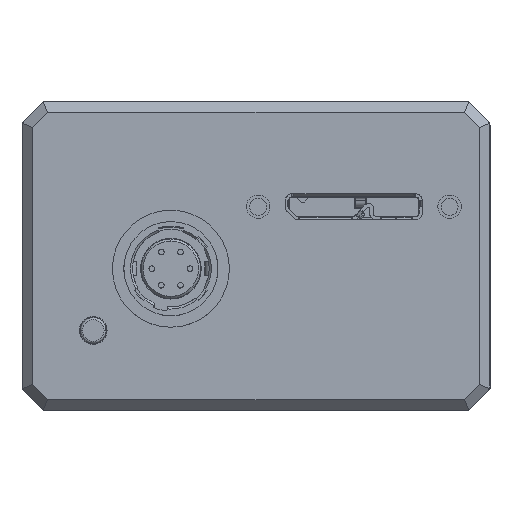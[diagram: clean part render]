
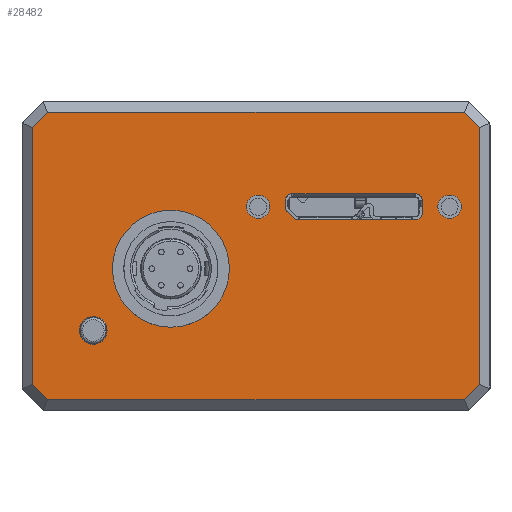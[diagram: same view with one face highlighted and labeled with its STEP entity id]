
A CAD part, top view. The second image highlights one B-rep face of the part: STEP entity #28482.
In plain terms, the highlighted planar face has unit normal (0, 0, 1).
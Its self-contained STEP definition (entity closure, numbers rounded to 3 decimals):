
#639=DIRECTION('',(1.,0.,0.));
#640=VECTOR('',#639,39.172);
#641=CARTESIAN_POINT('',(-19.586,-13.6,59.));
#642=LINE('',#641,#640);
#2041=DIRECTION('',(0.,1.,0.));
#2042=VECTOR('',#2041,24.172);
#2043=CARTESIAN_POINT('',(21.,-12.186,59.));
#2044=LINE('',#2043,#2042);
#2045=DIRECTION('',(-0.707,-0.707,0.));
#2046=VECTOR('',#2045,2.);
#2047=CARTESIAN_POINT('',(21.,-12.186,59.));
#2048=LINE('',#2047,#2046);
#2049=DIRECTION('',(-0.707,0.707,0.));
#2050=VECTOR('',#2049,2.);
#2051=CARTESIAN_POINT('',(-19.586,-13.6,59.));
#2052=LINE('',#2051,#2050);
#2053=DIRECTION('',(0.707,0.707,0.));
#2054=VECTOR('',#2053,2.);
#2055=CARTESIAN_POINT('',(-21.,11.986,59.));
#2056=LINE('',#2055,#2054);
#2057=DIRECTION('',(0.707,-0.707,0.));
#2058=VECTOR('',#2057,2.);
#2059=CARTESIAN_POINT('',(19.586,13.4,59.));
#2060=LINE('',#2059,#2058);
#2061=CARTESIAN_POINT('',(-15.3,-7.1,59.));
#2062=DIRECTION('',(0.,0.,1.));
#2063=DIRECTION('',(1.,0.,0.));
#2064=AXIS2_PLACEMENT_3D('',#2061,#2062,#2063);
#2066=CARTESIAN_POINT('',(-15.3,-7.1,59.));
#2067=DIRECTION('',(0.,0.,1.));
#2068=DIRECTION('',(-1.,0.,0.));
#2069=AXIS2_PLACEMENT_3D('',#2066,#2067,#2068);
#2071=CARTESIAN_POINT('',(15.025,5.15,59.));
#2072=DIRECTION('',(0.,0.,1.));
#2073=DIRECTION('',(1.,0.,0.));
#2074=AXIS2_PLACEMENT_3D('',#2071,#2072,#2073);
#2076=CARTESIAN_POINT('',(3.375,5.15,59.));
#2077=DIRECTION('',(0.,0.,1.));
#2078=DIRECTION('',(0.,1.,0.));
#2079=AXIS2_PLACEMENT_3D('',#2076,#2077,#2078);
#2081=CARTESIAN_POINT('',(3.375,4.474,59.));
#2082=DIRECTION('',(0.,0.,1.));
#2083=DIRECTION('',(-1.,0.,0.));
#2084=AXIS2_PLACEMENT_3D('',#2081,#2082,#2083);
#2086=DIRECTION('',(0.707,-0.707,0.));
#2087=VECTOR('',#2086,0.812);
#2088=CARTESIAN_POINT('',(2.951,4.05,59.));
#2089=LINE('',#2088,#2087);
#2090=CARTESIAN_POINT('',(3.949,3.9,59.));
#2091=DIRECTION('',(0.,0.,1.));
#2092=DIRECTION('',(-0.707,-0.707,0.));
#2093=AXIS2_PLACEMENT_3D('',#2090,#2091,#2092);
#2095=CARTESIAN_POINT('',(15.025,3.9,59.));
#2096=DIRECTION('',(0.,0.,1.));
#2097=DIRECTION('',(0.,-1.,0.));
#2098=AXIS2_PLACEMENT_3D('',#2095,#2096,#2097);
#2100=CARTESIAN_POINT('',(0.2,4.525,59.));
#2101=DIRECTION('',(0.,0.,1.));
#2102=DIRECTION('',(1.,0.,0.));
#2103=AXIS2_PLACEMENT_3D('',#2100,#2101,#2102);
#2105=CARTESIAN_POINT('',(0.2,4.525,59.));
#2106=DIRECTION('',(0.,0.,1.));
#2107=DIRECTION('',(-1.,0.,0.));
#2108=AXIS2_PLACEMENT_3D('',#2105,#2106,#2107);
#2110=CARTESIAN_POINT('',(18.2,4.525,59.));
#2111=DIRECTION('',(0.,0.,1.));
#2112=DIRECTION('',(1.,0.,0.));
#2113=AXIS2_PLACEMENT_3D('',#2110,#2111,#2112);
#2115=CARTESIAN_POINT('',(18.2,4.525,59.));
#2116=DIRECTION('',(0.,0.,1.));
#2117=DIRECTION('',(-1.,0.,0.));
#2118=AXIS2_PLACEMENT_3D('',#2115,#2116,#2117);
#2120=CARTESIAN_POINT('',(-8.,-1.3,59.));
#2121=DIRECTION('',(0.,0.,1.));
#2122=DIRECTION('',(1.,0.,0.));
#2123=AXIS2_PLACEMENT_3D('',#2120,#2121,#2122);
#2125=CARTESIAN_POINT('',(-8.,-1.3,59.));
#2126=DIRECTION('',(0.,0.,1.));
#2127=DIRECTION('',(-1.,0.,0.));
#2128=AXIS2_PLACEMENT_3D('',#2125,#2126,#2127);
#2156=DIRECTION('',(0.,-1.,0.));
#2157=VECTOR('',#2156,24.172);
#2158=CARTESIAN_POINT('',(-21.,11.986,59.));
#2159=LINE('',#2158,#2157);
#2485=DIRECTION('',(-1.,0.,0.));
#2486=VECTOR('',#2485,39.172);
#2487=CARTESIAN_POINT('',(19.586,13.4,59.));
#2488=LINE('',#2487,#2486);
#7653=DIRECTION('',(0.,-1.,0.));
#7654=VECTOR('',#7653,1.25);
#7655=CARTESIAN_POINT('',(15.625,5.15,59.));
#7656=LINE('',#7655,#7654);
#7915=DIRECTION('',(-1.,0.,0.));
#7916=VECTOR('',#7915,11.076);
#7917=CARTESIAN_POINT('',(15.025,3.3,59.));
#7918=LINE('',#7917,#7916);
#8998=DIRECTION('',(0.,1.,0.));
#8999=VECTOR('',#8998,0.676);
#9000=CARTESIAN_POINT('',(2.775,4.474,59.));
#9001=LINE('',#9000,#8999);
#9041=DIRECTION('',(1.,0.,0.));
#9042=VECTOR('',#9041,11.65);
#9043=CARTESIAN_POINT('',(3.375,5.75,59.));
#9044=LINE('',#9043,#9042);
#21010=CARTESIAN_POINT('',(3.375,5.75,59.));
#21011=VERTEX_POINT('',#21010);
#21015=CARTESIAN_POINT('',(2.775,5.15,59.));
#21016=VERTEX_POINT('',#21015);
#21017=CARTESIAN_POINT('',(15.025,5.75,59.));
#21019=VERTEX_POINT('',#21017);
#21031=CARTESIAN_POINT('',(15.625,5.15,59.));
#21033=VERTEX_POINT('',#21031);
#21038=CARTESIAN_POINT('',(15.625,3.9,59.));
#21040=VERTEX_POINT('',#21038);
#21046=CARTESIAN_POINT('',(15.025,3.3,59.));
#21048=VERTEX_POINT('',#21046);
#21216=CARTESIAN_POINT('',(3.949,3.3,59.));
#21217=VERTEX_POINT('',#21216);
#21884=CARTESIAN_POINT('',(2.775,4.474,59.));
#21885=VERTEX_POINT('',#21884);
#21894=CARTESIAN_POINT('',(2.951,4.05,59.));
#21895=VERTEX_POINT('',#21894);
#21896=CARTESIAN_POINT('',(3.525,3.476,59.));
#21897=VERTEX_POINT('',#21896);
#21898=CARTESIAN_POINT('',(21.,-12.186,59.));
#21899=CARTESIAN_POINT('',(21.,11.986,59.));
#21900=VERTEX_POINT('',#21898);
#21901=VERTEX_POINT('',#21899);
#21902=CARTESIAN_POINT('',(19.586,-13.6,59.));
#21903=VERTEX_POINT('',#21902);
#21904=CARTESIAN_POINT('',(-19.586,-13.6,59.));
#21905=VERTEX_POINT('',#21904);
#21906=CARTESIAN_POINT('',(-21.,-12.186,59.));
#21907=VERTEX_POINT('',#21906);
#21908=CARTESIAN_POINT('',(-21.,11.986,59.));
#21909=VERTEX_POINT('',#21908);
#21910=CARTESIAN_POINT('',(-19.586,13.4,59.));
#21911=VERTEX_POINT('',#21910);
#21912=CARTESIAN_POINT('',(19.586,13.4,59.));
#21913=VERTEX_POINT('',#21912);
#21914=CARTESIAN_POINT('',(-14.,-7.1,59.));
#21915=CARTESIAN_POINT('',(-16.6,-7.1,59.));
#21916=VERTEX_POINT('',#21914);
#21917=VERTEX_POINT('',#21915);
#21918=CARTESIAN_POINT('',(1.3,4.525,59.));
#21919=CARTESIAN_POINT('',(-0.9,4.525,59.));
#21920=VERTEX_POINT('',#21918);
#21921=VERTEX_POINT('',#21919);
#21922=CARTESIAN_POINT('',(19.3,4.525,59.));
#21923=CARTESIAN_POINT('',(17.1,4.525,59.));
#21924=VERTEX_POINT('',#21922);
#21925=VERTEX_POINT('',#21923);
#21926=CARTESIAN_POINT('',(-2.5,-1.3,59.));
#21927=CARTESIAN_POINT('',(-13.5,-1.3,59.));
#21928=VERTEX_POINT('',#21926);
#21929=VERTEX_POINT('',#21927);
#28415=CARTESIAN_POINT('',(0.,-0.1,59.));
#28416=DIRECTION('',(0.,0.,1.));
#28417=DIRECTION('',(1.,0.,0.));
#28418=AXIS2_PLACEMENT_3D('',#28415,#28416,#28417);
#28419=PLANE('',#28418);
#28420=ORIENTED_EDGE('',*,*,#28402,.F.);
#28422=ORIENTED_EDGE('',*,*,#28421,.T.);
#28423=ORIENTED_EDGE('',*,*,#26547,.F.);
#28425=ORIENTED_EDGE('',*,*,#28424,.T.);
#28427=ORIENTED_EDGE('',*,*,#28426,.F.);
#28429=ORIENTED_EDGE('',*,*,#28428,.T.);
#28431=ORIENTED_EDGE('',*,*,#28430,.F.);
#28433=ORIENTED_EDGE('',*,*,#28432,.T.);
#28434=EDGE_LOOP('',(#28420,#28422,#28423,#28425,#28427,#28429,#28431,#28433));
#28435=FACE_OUTER_BOUND('',#28434,.F.);
#28437=ORIENTED_EDGE('',*,*,#28436,.T.);
#28439=ORIENTED_EDGE('',*,*,#28438,.T.);
#28440=EDGE_LOOP('',(#28437,#28439));
#28441=FACE_BOUND('',#28440,.F.);
#28443=ORIENTED_EDGE('',*,*,#28442,.T.);
#28445=ORIENTED_EDGE('',*,*,#28444,.F.);
#28447=ORIENTED_EDGE('',*,*,#28446,.T.);
#28449=ORIENTED_EDGE('',*,*,#28448,.F.);
#28451=ORIENTED_EDGE('',*,*,#28450,.T.);
#28453=ORIENTED_EDGE('',*,*,#28452,.T.);
#28455=ORIENTED_EDGE('',*,*,#28454,.T.);
#28457=ORIENTED_EDGE('',*,*,#28456,.F.);
#28459=ORIENTED_EDGE('',*,*,#28458,.T.);
#28461=ORIENTED_EDGE('',*,*,#28460,.F.);
#28462=EDGE_LOOP('',(#28443,#28445,#28447,#28449,#28451,#28453,#28455,#28457,
#28459,#28461));
#28463=FACE_BOUND('',#28462,.F.);
#28465=ORIENTED_EDGE('',*,*,#28464,.T.);
#28467=ORIENTED_EDGE('',*,*,#28466,.T.);
#28468=EDGE_LOOP('',(#28465,#28467));
#28469=FACE_BOUND('',#28468,.F.);
#28471=ORIENTED_EDGE('',*,*,#28470,.T.);
#28473=ORIENTED_EDGE('',*,*,#28472,.T.);
#28474=EDGE_LOOP('',(#28471,#28473));
#28475=FACE_BOUND('',#28474,.F.);
#28477=ORIENTED_EDGE('',*,*,#28476,.T.);
#28479=ORIENTED_EDGE('',*,*,#28478,.T.);
#28480=EDGE_LOOP('',(#28477,#28479));
#28481=FACE_BOUND('',#28480,.F.);
#28482=ADVANCED_FACE('',(#28435,#28441,#28463,#28469,#28475,#28481),#28419,.T.);
#2065=CIRCLE('',#2064,1.3);
#2070=CIRCLE('',#2069,1.3);
#2075=CIRCLE('',#2074,0.6);
#2080=CIRCLE('',#2079,0.6);
#2085=CIRCLE('',#2084,0.6);
#2094=CIRCLE('',#2093,0.6);
#2099=CIRCLE('',#2098,0.6);
#2104=CIRCLE('',#2103,1.1);
#2109=CIRCLE('',#2108,1.1);
#2114=CIRCLE('',#2113,1.1);
#2119=CIRCLE('',#2118,1.1);
#2124=CIRCLE('',#2123,5.5);
#2129=CIRCLE('',#2128,5.5);
#26547=EDGE_CURVE('',#21905,#21903,#642,.T.);
#28402=EDGE_CURVE('',#21900,#21901,#2044,.T.);
#28421=EDGE_CURVE('',#21900,#21903,#2048,.T.);
#28424=EDGE_CURVE('',#21905,#21907,#2052,.T.);
#28426=EDGE_CURVE('',#21909,#21907,#2159,.T.);
#28428=EDGE_CURVE('',#21909,#21911,#2056,.T.);
#28430=EDGE_CURVE('',#21913,#21911,#2488,.T.);
#28432=EDGE_CURVE('',#21913,#21901,#2060,.T.);
#28436=EDGE_CURVE('',#21916,#21917,#2065,.T.);
#28438=EDGE_CURVE('',#21917,#21916,#2070,.T.);
#28442=EDGE_CURVE('',#21033,#21019,#2075,.T.);
#28444=EDGE_CURVE('',#21011,#21019,#9044,.T.);
#28446=EDGE_CURVE('',#21011,#21016,#2080,.T.);
#28448=EDGE_CURVE('',#21885,#21016,#9001,.T.);
#28450=EDGE_CURVE('',#21885,#21895,#2085,.T.);
#28452=EDGE_CURVE('',#21895,#21897,#2089,.T.);
#28454=EDGE_CURVE('',#21897,#21217,#2094,.T.);
#28456=EDGE_CURVE('',#21048,#21217,#7918,.T.);
#28458=EDGE_CURVE('',#21048,#21040,#2099,.T.);
#28460=EDGE_CURVE('',#21033,#21040,#7656,.T.);
#28464=EDGE_CURVE('',#21920,#21921,#2104,.T.);
#28466=EDGE_CURVE('',#21921,#21920,#2109,.T.);
#28470=EDGE_CURVE('',#21924,#21925,#2114,.T.);
#28472=EDGE_CURVE('',#21925,#21924,#2119,.T.);
#28476=EDGE_CURVE('',#21928,#21929,#2124,.T.);
#28478=EDGE_CURVE('',#21929,#21928,#2129,.T.);
